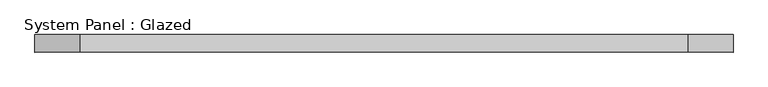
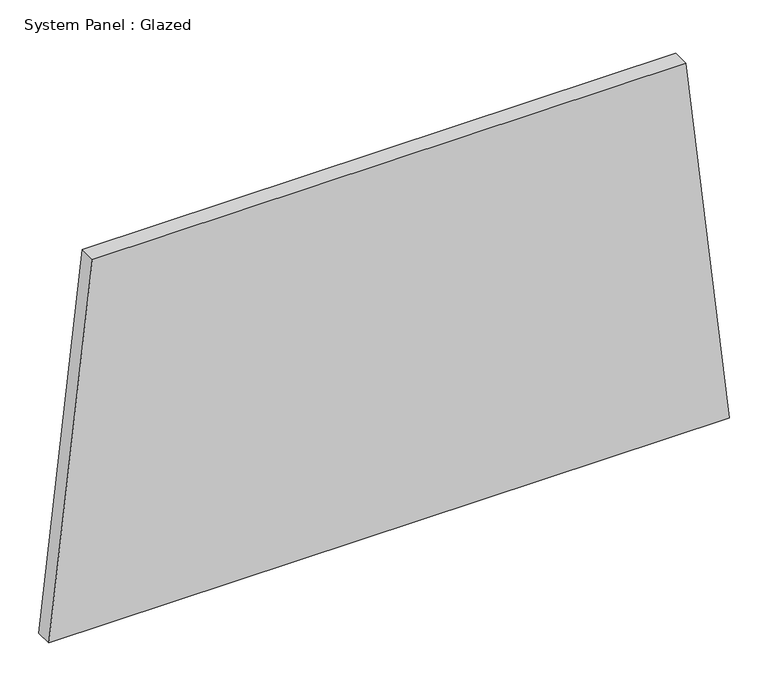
"""IFC4 building model written with IfcOpenShell, lengths in millimetres: plate geometry, System Panel : Glazed."""

import ifcopenshell
import ifcopenshell.guid

model = None  # the IFC model being written
_history = None  # IfcOwnerHistory: only IFC2X3 demands one
_inside = {}  # id of a spatial element -> (the spatial element, [elements in it])
_under = {}  # id of a project, library or spatial element -> (it, [spatial elements below it])
_declared = {}  # id of a project -> (the project, [libraries it declares])
_typed = {}  # id of a type object -> (the type object, [elements of that type])
_made_of = {}  # id of a material, layer set ... -> (it, [elements and type objects made of it])


def new_model(schema):
    """Start an empty IFC model of exactly this schema.

    Asked for "IFC4X3", IfcOpenShell would pick the latest addendum, in which some entities
    have other attributes; the version numbers below select the first issue.
    IFC2X3 requires an IfcOwnerHistory on every rooted entity: one is made here for all.
    """
    global model, _history
    if schema == "IFC4X3":
        model = ifcopenshell.file(schema_version=(4, 3, 0, 0))
    else:
        model = ifcopenshell.file(schema=schema)
    _inside.clear()
    _under.clear()
    _declared.clear()
    _typed.clear()
    _made_of.clear()
    _history = None
    if model.schema == "IFC2X3":
        org = make("IfcOrganization", Name="unknown")
        user = make(
            "IfcPersonAndOrganization",
            ThePerson=make("IfcPerson", FamilyName="unknown"),
            TheOrganization=org,
        )
        app = make(
            "IfcApplication",
            ApplicationDeveloper=org,
            Version="unknown",
            ApplicationFullName="unknown",
            ApplicationIdentifier="unknown",
        )
        _history = make(
            "IfcOwnerHistory",
            OwningUser=user,
            OwningApplication=app,
            ChangeAction="ADDED",
            CreationDate=0,
        )
    return model


def make(cls, **values):
    """One entity of the class cls with the attributes given. An attribute that is None is left unset."""
    return model.create_entity(
        cls, **{name: value for name, value in values.items() if value is not None}
    )


def rooted(cls, **values):
    """An entity with a GlobalId (a new one), such as an element, a storey or a relation."""
    return make(cls, GlobalId=ifcopenshell.guid.new(), OwnerHistory=_history, **values)


def si_unit(unit_type, name, prefix=None):
    """IfcSIUnit, for example si_unit("LENGTHUNIT", "METRE", prefix="MILLI")."""
    return make("IfcSIUnit", UnitType=unit_type, Prefix=prefix, Name=name)


def assignment(units):
    """IfcUnitAssignment: the units of a project."""
    return None if units is None else make("IfcUnitAssignment", Units=units)


def point(xyz):
    """IfcCartesianPoint."""
    return None if xyz is None else make("IfcCartesianPoint", Coordinates=xyz)


def direction(xyz):
    """IfcDirection."""
    return None if xyz is None else make("IfcDirection", DirectionRatios=xyz)


def frame(location, z_axis=None, x_axis=None):
    """IfcAxis2Placement3D, a coordinate frame: its origin and axes. An axis left out is left unset."""
    return make(
        "IfcAxis2Placement3D",
        Location=point(location),
        Axis=direction(z_axis),
        RefDirection=direction(x_axis),
    )


def origin():
    """The frame at (0, 0, 0) with its axes left unset."""
    return frame((0.0, 0.0, 0.0))


def place(relative_to, where):
    """IfcLocalPlacement: puts the frame where relative to a parent placement (None: the world)."""
    return make(
        "IfcLocalPlacement", PlacementRelTo=relative_to, RelativePlacement=where
    )


def context(
    kind, dimensions, precision=None, world=None, true_north=None, identifier=None
):
    """IfcGeometricRepresentationContext, for example the 3D "Model" context."""
    return make(
        "IfcGeometricRepresentationContext",
        ContextIdentifier=identifier,
        ContextType=kind,
        CoordinateSpaceDimension=dimensions,
        Precision=precision,
        WorldCoordinateSystem=world,
        TrueNorth=true_north,
    )


def project(units=None, contexts=None):
    """IfcProject with its units and contexts."""
    return rooted(
        "IfcProject",
        Name="project",
        RepresentationContexts=contexts,
        UnitsInContext=assignment(units),
    )


def spatial(cls, under=None, at=None, **own):
    """A site, building, storey or space (cls), placed at a placement, below another one or the project."""
    s = rooted(cls, ObjectPlacement=at, **own)
    if under is not None:
        _under.setdefault(under.id(), (under, []))[1].append(s)
    return s


def polyline(points):
    """IfcPolyline through the points."""
    return make("IfcPolyline", Points=[point(p) for p in points])


def outline(outer, holes=None, kind="AREA"):
    """IfcArbitraryClosedProfileDef: a profile drawn as a closed curve; with holes, ...WithVoids."""
    if holes is None:
        return make("IfcArbitraryClosedProfileDef", ProfileType=kind, OuterCurve=outer)
    return make(
        "IfcArbitraryProfileDefWithVoids",
        ProfileType=kind,
        OuterCurve=outer,
        InnerCurves=holes,
    )


def extrude(swept, where, along, depth):
    """IfcExtrudedAreaSolid: the profile swept, set in the frame where, extruded along a direction by depth."""
    return make(
        "IfcExtrudedAreaSolid",
        SweptArea=swept,
        Position=where,
        ExtrudedDirection=direction(along),
        Depth=depth,
    )


def shape(context_of_items, identifier, shape_type, items):
    """IfcShapeRepresentation: the items that make up one representation, for example the "Body"."""
    return make(
        "IfcShapeRepresentation",
        ContextOfItems=context_of_items,
        RepresentationIdentifier=identifier,
        RepresentationType=shape_type,
        Items=items,
    )


def source(mapping_origin, context_of_items, identifier, shape_type, items):
    """IfcRepresentationMap: a shape defined once, which mapped items show again and again."""
    return make(
        "IfcRepresentationMap",
        MappingOrigin=mapping_origin,
        MappedRepresentation=shape(context_of_items, identifier, shape_type, items),
    )


def transform(
    local_origin,
    x_axis=None,
    y_axis=None,
    z_axis=None,
    scale=None,
    scale2=None,
    scale3=None,
    uniform=True,
):
    """IfcCartesianTransformationOperator3D, or its non-uniform kind. x_axis, y_axis, z_axis: its Axis1, 2, 3."""
    if uniform:
        return make(
            "IfcCartesianTransformationOperator3D",
            Axis1=direction(x_axis),
            Axis2=direction(y_axis),
            LocalOrigin=point(local_origin),
            Scale=scale,
            Axis3=direction(z_axis),
        )
    return make(
        "IfcCartesianTransformationOperator3DnonUniform",
        Axis1=direction(x_axis),
        Axis2=direction(y_axis),
        LocalOrigin=point(local_origin),
        Scale=scale,
        Axis3=direction(z_axis),
        Scale2=scale2,
        Scale3=scale3,
    )


def mapped(mapping_source, mapping_target):
    """IfcMappedItem: shows the shape of a source again, moved by a transform."""
    return make(
        "IfcMappedItem", MappingSource=mapping_source, MappingTarget=mapping_target
    )


def made_of(thing, what):
    """Note that an element or type object is made of a material, layer set ...; save() writes the relation."""
    if what is not None:
        _made_of.setdefault(what.id(), (what, []))[1].append(thing)
    return thing


def element(
    cls,
    number,
    at=None,
    inside=None,
    cuts=None,
    type_object=None,
    material=None,
    context=None,
    identifier="Body",
    shape_type=None,
    held_by="IfcProductDefinitionShape",
    body=None,
    shapes=None,
    **own,
):
    """One element of the class cls, such as IfcWall. Its Tag is "e" and its number.

    at: its placement. inside: the storey or other place that contains it. cuts: it is an
    opening in that element (IfcRelVoidsElement). A single representation is given by context,
    identifier, shape_type and body (its items); several are given by shapes. held_by: the class
    of the entity that holds the representations. save() writes the other relations.
    """
    e = rooted(cls, Tag="e%d" % number, ObjectPlacement=at, **own)
    if body is not None:
        shapes = [shape(context, identifier, shape_type, body)]
    if shapes is not None:
        e.Representation = make(held_by, Representations=shapes)
    if inside is not None:
        _inside.setdefault(inside.id(), (inside, []))[1].append(e)
    if cuts is not None:
        rooted(
            "IfcRelVoidsElement", RelatingBuildingElement=cuts, RelatedOpeningElement=e
        )
    if type_object is not None:
        _typed.setdefault(type_object.id(), (type_object, []))[1].append(e)
    return made_of(e, material)


def aggregate(whole, parts):
    """IfcRelAggregates: a whole, such as a stair, and the parts it consists of."""
    return rooted("IfcRelAggregates", RelatingObject=whole, RelatedObjects=parts)


def save(model, path):
    """Write the relations noted so far, then the file.

    IfcRelAggregates (storeys below a building ...), IfcRelContainedInSpatialStructure (elements
    in a storey), IfcRelDefinesByType, IfcRelAssociatesMaterial and IfcRelDeclares: one each for
    every whole, place, type object, material and project.
    """
    for whole, parts in _under.values():
        aggregate(whole, parts)
    for where, things in _inside.values():
        rooted(
            "IfcRelContainedInSpatialStructure",
            RelatedElements=things,
            RelatingStructure=where,
        )
    for kind, things in _typed.values():
        rooted("IfcRelDefinesByType", RelatedObjects=things, RelatingType=kind)
    for what, things in _made_of.values():
        rooted("IfcRelAssociatesMaterial", RelatedObjects=things, RelatingMaterial=what)
    for by, libraries in _declared.values():
        rooted("IfcRelDeclares", RelatingContext=by, RelatedDefinitions=libraries)
    model.write(path)


def system_panel_glazed_7646b435(model_context):
    return source(origin(), model_context, "Body", "SweptSolid", [
        extrude(outline(polyline([(0.0, -505.4775988), (0.0, 505.4775988), (580.4357246, 440.6729813), (580.4357246, -440.6729813), (0.0, -505.4775988)])), frame((0.0, -44.45, 0.0), z_axis=(0.0, 1.0, 0.0), x_axis=(0.0, 0.0, 1.0)), (0.0, 0.0, 1.0), 25.4),
    ])


if __name__ == "__main__":
    model = new_model("IFC4")
    model_context = context("Model", 3, world=origin())
    ifc_project = project(units=[si_unit("LENGTHUNIT", "METRE", prefix="MILLI")], contexts=[model_context])
    site = spatial("IfcSite", under=ifc_project)
    building = spatial("IfcBuilding", under=site)
    placement = place(None, origin())
    system_panel_glazed_shape = system_panel_glazed_7646b435(model_context)
    element("IfcPlate", 1, ObjectType="System Panel : Glazed", at=placement, inside=building, context=model_context, shape_type="MappedRepresentation", body=[
        mapped(system_panel_glazed_shape, transform((0.0, 0.0, 0.0), x_axis=(1.0, 0.0, 0.0), y_axis=(0.0, 1.0, 0.0), z_axis=(0.0, 0.0, 1.0))),
    ])
    save(model, "model.ifc")
